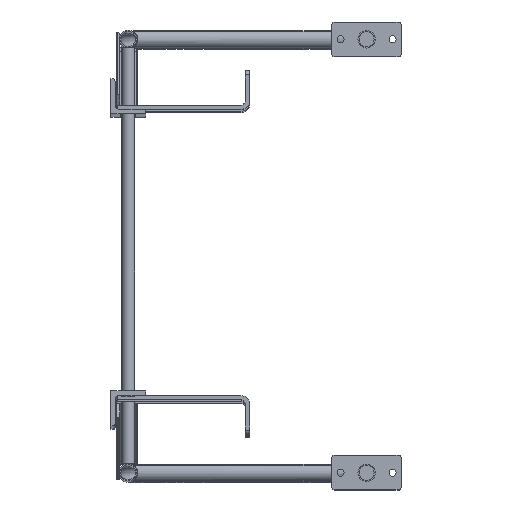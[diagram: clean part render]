
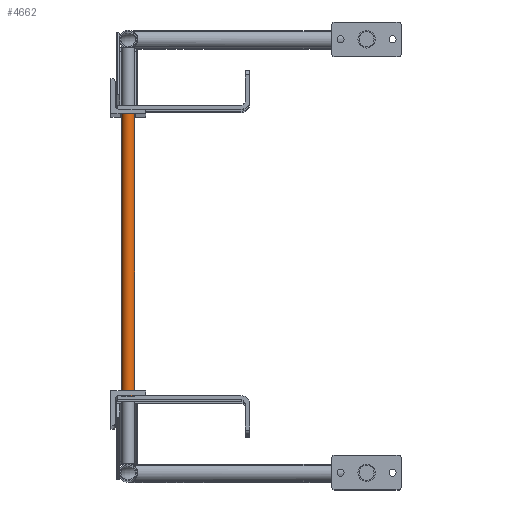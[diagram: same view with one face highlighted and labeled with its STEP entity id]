
A CAD part, top view. The second image highlights one B-rep face of the part: STEP entity #4662.
In plain terms, the highlighted cylindrical face has radius 9.525 mm (diameter 19.05 mm), a full revolution.
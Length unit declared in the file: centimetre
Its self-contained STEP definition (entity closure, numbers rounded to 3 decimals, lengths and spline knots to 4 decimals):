
#859=FACE_BOUND('',#1300,.T.);
#1018=FACE_OUTER_BOUND('',#1299,.T.);
#1299=EDGE_LOOP('',(#3097));
#1300=EDGE_LOOP('',(#3098));
#1711=CIRCLE('',#4980,0.9525);
#1712=CIRCLE('',#4981,0.9525);
#1989=VERTEX_POINT('',#7190);
#1990=VERTEX_POINT('',#7192);
#2441=EDGE_CURVE('',#1989,#1989,#1711,.T.);
#2442=EDGE_CURVE('',#1990,#1990,#1712,.T.);
#3097=ORIENTED_EDGE('',*,*,#2441,.T.);
#3098=ORIENTED_EDGE('',*,*,#2442,.F.);
#4241=CYLINDRICAL_SURFACE('',#4979,0.9525);
#4662=ADVANCED_FACE('',(#1018,#859),#4241,.T.);
#4979=AXIS2_PLACEMENT_3D('',#7189,#5582,#5583);
#4980=AXIS2_PLACEMENT_3D('',#7191,#5584,#5585);
#4981=AXIS2_PLACEMENT_3D('',#7193,#5586,#5587);
#5582=DIRECTION('center_axis',(0.,1.,0.));
#5583=DIRECTION('ref_axis',(1.,0.,0.));
#5584=DIRECTION('center_axis',(0.,-1.,0.));
#5585=DIRECTION('ref_axis',(1.,0.,0.));
#5586=DIRECTION('center_axis',(0.,-1.,0.));
#5587=DIRECTION('ref_axis',(1.,0.,0.));
#7189=CARTESIAN_POINT('Origin',(2.54,-41.4338,308.61));
#7190=CARTESIAN_POINT('',(1.5875,0.4763,308.61));
#7191=CARTESIAN_POINT('Origin',(2.54,0.4763,308.61));
#7192=CARTESIAN_POINT('',(1.5875,-41.4338,308.61));
#7193=CARTESIAN_POINT('Origin',(2.54,-41.4338,308.61));
